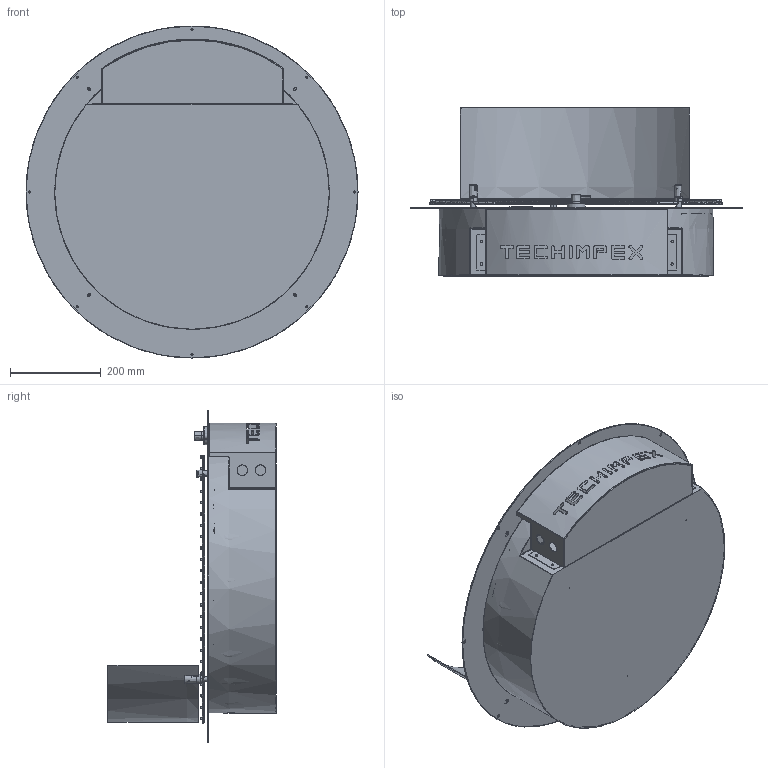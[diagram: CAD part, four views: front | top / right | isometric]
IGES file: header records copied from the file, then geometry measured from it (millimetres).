
Start section: SolidWorks IGES file using analytic representation for surfaces
Global section: file name: C:\Documents and Settings\Nico\Desktop\Techimpex\Barbecue73\Assieme\IGES73\Assem1.IGS; native system: SolidWorks 2008; preprocessor: SolidWorks 2008; author: Nico; date: 091023.135506; units: millimetre
Bounding box: 730 x 370.28 x 730 mm (x, y, z)
Surface area: 3246737.8 mm2 (no closed solid volume)
Topology: 0 solids, 0 shells, 1321 faces, 21587 edges, 21581 vertices
Faces by surface type: bspline 743, revolution 578
